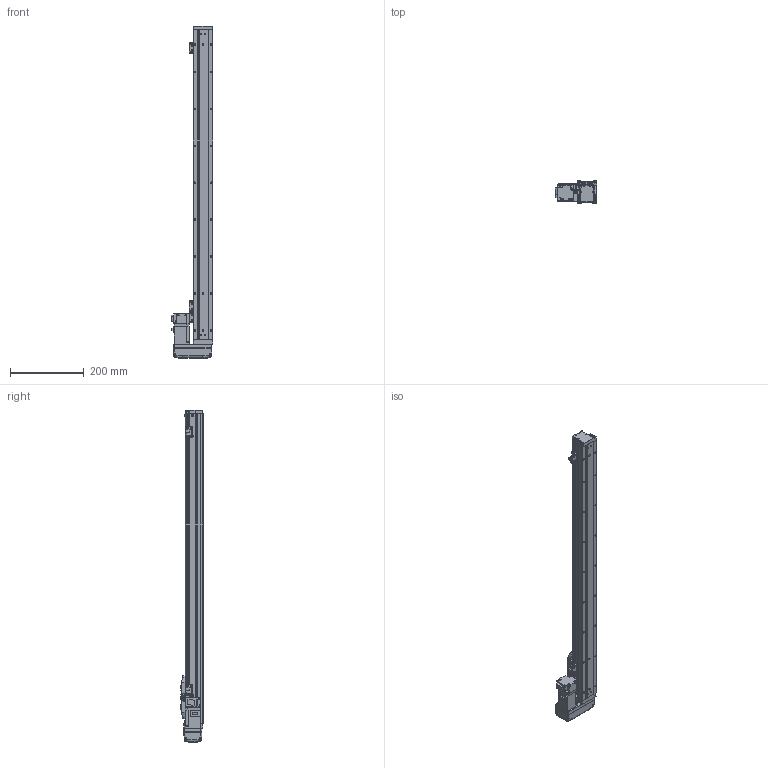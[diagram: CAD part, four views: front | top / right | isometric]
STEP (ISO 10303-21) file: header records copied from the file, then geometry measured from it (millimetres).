
FILE_DESCRIPTION (( 'STEP AP203' ), '1' );
FILE_NAME ('GTH5-700-BL-M10-C4.step', '2022-09-23T00:45:23', ( '微软用户' ), ( '微软中国' ), 'SwSTEP 2.0', 'SolidWorks 2020', '' );
FILE_SCHEMA (( 'CONFIG_CONTROL_DESIGN' ));
Length unit declared in the file: millimetre
Products named in the file (19): GBT 70.1-M3℅6; GTH50-027-1_BTHA50-027-2; BTH-M3X5X6; GBT96.1-2002 3×0.8; GTH50-026; GTH50-001_700; GTH50-024; GTH5-700-BL-M10-C4; GBT 70.1-M4×16; GBT 70.1-M2.5×6; GTH50-003; GTH50-028; GTH50-006; GTH50-013; GTH50-022-1; GTH50-004; GTH50-023; HG-KR13; GBT 70.3-M3℅6
Assembly tree (57 placements, depth 2):
  GTH5-700-BL-M10-C4
    GTH50-006
    GTH50-004
    GBT 70.3-M3℅6  x4
    BTH-M3X5X6  x8
    GTH50-001_700
    GBT 70.1-M4×16  x8
    GTH50-003
    GTH50-013
    GTH50-023  x3
    GBT 70.1-M3℅6  x12
    GBT96.1-2002 3×0.8  x6
    GTH50-024  x3
    GBT 70.1-M2.5×6  x2
    GTH50-028  x2
    GTH50-022-1
    HG-KR13
    GTH50-027-1_BTHA50-027-2
    GTH50-026
Bounding box: 113.8 x 60 x 900 mm (x, y, z)
Volume: 2021475.1 mm3; surface area: 328897.4 mm2
Topology: 59 solids, 59 shells, 2164 faces, 5028 edges, 3084 vertices
Faces by surface type: plane 1142, cylinder 593, cone 219, torus 162, bspline 40, sphere 8
Entity records: 40308 total; most frequent: CARTESIAN_POINT 7971, DIRECTION 6213, ORIENTED_EDGE 5970, EDGE_CURVE 2985, AXIS2_PLACEMENT_3D 2164, VERTEX_POINT 1886, LINE 1885, VECTOR 1885
